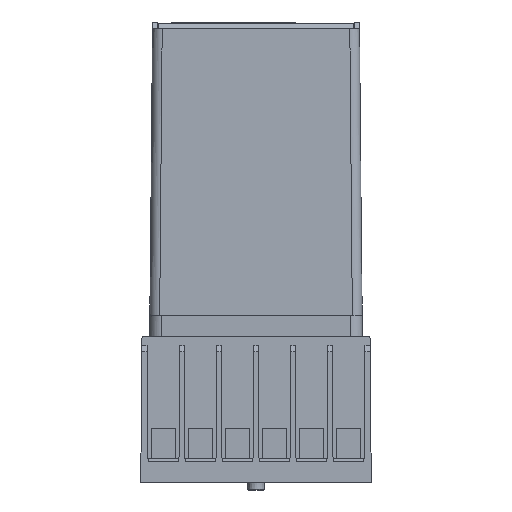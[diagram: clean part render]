
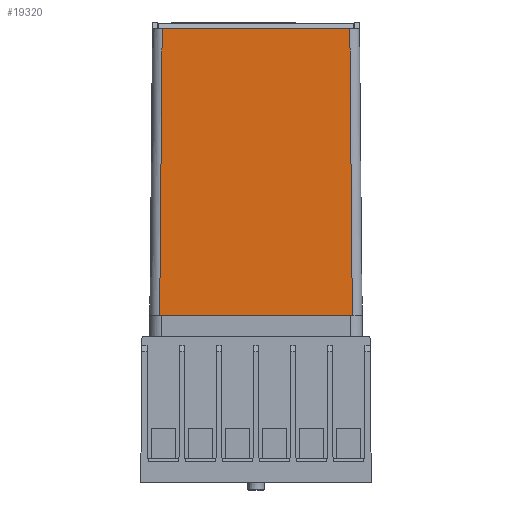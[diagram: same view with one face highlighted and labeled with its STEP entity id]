
A CAD part, front view. The second image highlights one B-rep face of the part: STEP entity #19320.
In plain terms, the highlighted planar face has unit normal (0, -1, 0.009).
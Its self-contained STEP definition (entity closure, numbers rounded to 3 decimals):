
#482 = DIRECTION ( 'NONE',  ( 0., -1., 0.009 ) ) ;
#1228 = ORIENTED_EDGE ( 'NONE', *, *, #26089, .T. ) ;
#1975 = VECTOR ( 'NONE', #38183, 1000. ) ;
#2353 = VERTEX_POINT ( 'NONE', #44454 ) ;
#3563 = CARTESIAN_POINT ( 'NONE',  ( 34.79, 20.021, 28.8 ) ) ;
#4532 = CARTESIAN_POINT ( 'NONE',  ( 3.209, 20.021, 28.8 ) ) ;
#5956 = PLANE ( 'NONE',  #47898 ) ;
#6275 = ORIENTED_EDGE ( 'NONE', *, *, #9082, .F. ) ;
#7280 = VERTEX_POINT ( 'NONE', #19361 ) ;
#8176 = CARTESIAN_POINT ( 'NONE',  ( 34.879, 20.021, 28.8 ) ) ;
#8320 = CARTESIAN_POINT ( 'NONE',  ( 34.879, 20.021, 28.8 ) ) ;
#9082 = EDGE_CURVE ( 'NONE', #50345, #2353, #44181, .T. ) ;
#9844 = CARTESIAN_POINT ( 'NONE',  ( 34.789, 20.021, 28.8 ) ) ;
#9954 = CARTESIAN_POINT ( 'NONE',  ( 0.649, 20., 26.4 ) ) ;
#10843 = LINE ( 'NONE', #52069, #1975 ) ;
#11925 = EDGE_CURVE ( 'NONE', #36703, #18145, #49455, .T. ) ;
#11962 = DIRECTION ( 'NONE',  ( 0.009, 0.009, 1. ) ) ;
#13687 = CARTESIAN_POINT ( 'NONE',  ( 3.21, 20.021, 28.8 ) ) ;
#14294 = CARTESIAN_POINT ( 'NONE',  ( 3.209, 20.021, 28.8 ) ) ;
#14827 = EDGE_LOOP ( 'NONE', ( #44539, #31875, #6275, #1228, #27103, #55790, #36539, #30605 ) ) ;
#18145 = VERTEX_POINT ( 'NONE', #49774 ) ;
#19320 = ADVANCED_FACE ( 'NONE', ( #33599 ), #5956, .T. ) ;
#19361 = CARTESIAN_POINT ( 'NONE',  ( 3.211, 20.021, 28.8 ) ) ;
#19952 = DIRECTION ( 'NONE',  ( 0., 0.009, 1. ) ) ;
#21663 = EDGE_CURVE ( 'NONE', #27457, #36703, #43509, .T. ) ;
#22078 = EDGE_CURVE ( 'NONE', #56753, #27457, #26549, .T. ) ;
#22455 = CARTESIAN_POINT ( 'NONE',  ( 34.79, 20.021, 28.8 ) ) ;
#23041 = CARTESIAN_POINT ( 'NONE',  ( 34.789, 20.021, 28.8 ) ) ;
#23793 = LINE ( 'NONE', #46258, #52462 ) ;
#25483 = CARTESIAN_POINT ( 'NONE',  ( 1.5, 20.021, 28.8 ) ) ;
#26089 = EDGE_CURVE ( 'NONE', #50345, #41545, #39147, .T. ) ;
#26549 = B_SPLINE_CURVE_WITH_KNOTS ( 'NONE', 3,
 ( #23041, #22455, #32176, #3563 ),
 .UNSPECIFIED., .F., .F.,
 ( 4, 4 ),
 ( 0., 1. ),
 .UNSPECIFIED. ) ;
#26602 = EDGE_CURVE ( 'NONE', #41545, #7280, #40058, .T. ) ;
#27103 = ORIENTED_EDGE ( 'NONE', *, *, #26602, .T. ) ;
#27457 = VERTEX_POINT ( 'NONE', #45537 ) ;
#28035 = DIRECTION ( 'NONE',  ( 1., 0., 0. ) ) ;
#29303 = CARTESIAN_POINT ( 'NONE',  ( 3.531, 20.431, 75.802 ) ) ;
#30605 = ORIENTED_EDGE ( 'NONE', *, *, #21663, .T. ) ;
#31875 = ORIENTED_EDGE ( 'NONE', *, *, #51400, .F. ) ;
#32176 = CARTESIAN_POINT ( 'NONE',  ( 34.79, 20.021, 28.8 ) ) ;
#32227 = CARTESIAN_POINT ( 'NONE',  ( 3.211, 20.021, 28.8 ) ) ;
#33599 = FACE_OUTER_BOUND ( 'NONE', #14827, .T. ) ;
#34389 = CARTESIAN_POINT ( 'NONE',  ( 1.5, 20.021, 28.8 ) ) ;
#36539 = ORIENTED_EDGE ( 'NONE', *, *, #22078, .T. ) ;
#36703 = VERTEX_POINT ( 'NONE', #8320 ) ;
#38183 = DIRECTION ( 'NONE',  ( -1., 0., 0. ) ) ;
#39147 = LINE ( 'NONE', #25483, #56854 ) ;
#39272 = EDGE_CURVE ( 'NONE', #56753, #7280, #10843, .T. ) ;
#40058 = B_SPLINE_CURVE_WITH_KNOTS ( 'NONE', 3,
 ( #4532, #55216, #13687, #32227 ),
 .UNSPECIFIED., .F., .F.,
 ( 4, 4 ),
 ( 0., 1. ),
 .UNSPECIFIED. ) ;
#40897 = CARTESIAN_POINT ( 'NONE',  ( 3.121, 20.021, 28.8 ) ) ;
#41545 = VERTEX_POINT ( 'NONE', #14294 ) ;
#43509 = LINE ( 'NONE', #34389, #54800 ) ;
#44034 = DIRECTION ( 'NONE',  ( 1., 0., 0. ) ) ;
#44181 = LINE ( 'NONE', #29303, #49147 ) ;
#44454 = CARTESIAN_POINT ( 'NONE',  ( 3.533, 20.433, 76. ) ) ;
#44539 = ORIENTED_EDGE ( 'NONE', *, *, #11925, .T. ) ;
#45519 = DIRECTION ( 'NONE',  ( -0.009, 0.009, 1. ) ) ;
#45537 = CARTESIAN_POINT ( 'NONE',  ( 34.79, 20.021, 28.8 ) ) ;
#46258 = CARTESIAN_POINT ( 'NONE',  ( 0.649, 20.433, 76. ) ) ;
#47898 = AXIS2_PLACEMENT_3D ( 'NONE', #9954, #482, #19952 ) ;
#49147 = VECTOR ( 'NONE', #11962, 1000. ) ;
#49455 = LINE ( 'NONE', #8176, #55246 ) ;
#49774 = CARTESIAN_POINT ( 'NONE',  ( 34.467, 20.433, 76. ) ) ;
#50345 = VERTEX_POINT ( 'NONE', #40897 ) ;
#51400 = EDGE_CURVE ( 'NONE', #2353, #18145, #23793, .T. ) ;
#52069 = CARTESIAN_POINT ( 'NONE',  ( 0.649, 20.021, 28.8 ) ) ;
#52462 = VECTOR ( 'NONE', #28035, 1000. ) ;
#52555 = DIRECTION ( 'NONE',  ( 1., 0., 0. ) ) ;
#54800 = VECTOR ( 'NONE', #52555, 1000. ) ;
#55216 = CARTESIAN_POINT ( 'NONE',  ( 3.21, 20.021, 28.8 ) ) ;
#55246 = VECTOR ( 'NONE', #45519, 1000. ) ;
#55790 = ORIENTED_EDGE ( 'NONE', *, *, #39272, .F. ) ;
#56753 = VERTEX_POINT ( 'NONE', #9844 ) ;
#56854 = VECTOR ( 'NONE', #44034, 1000. ) ;
